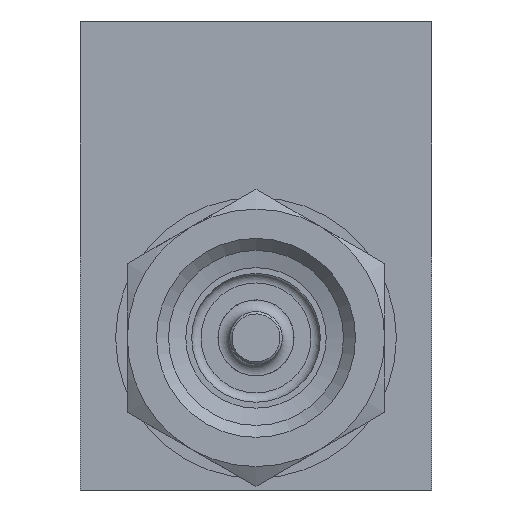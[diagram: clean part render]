
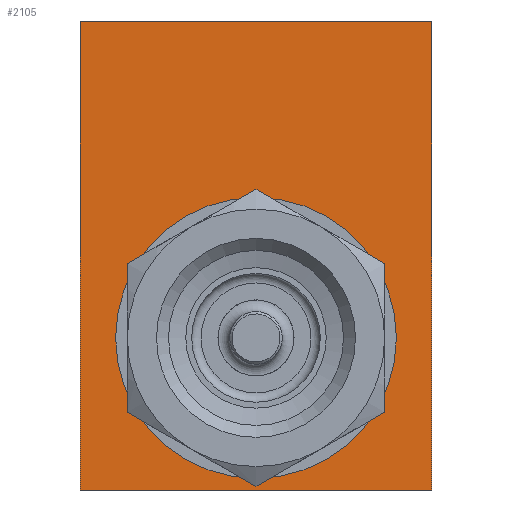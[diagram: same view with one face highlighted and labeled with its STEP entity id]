
A CAD part, left-side view. The second image highlights one B-rep face of the part: STEP entity #2105.
In plain terms, the highlighted planar face has unit normal (-1, 0, 0).
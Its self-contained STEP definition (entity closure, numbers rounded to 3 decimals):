
#117=FACE_BOUND('',#492,.T.);
#183=LINE('',#3354,#256);
#188=LINE('',#3364,#261);
#189=LINE('',#3367,#262);
#190=LINE('',#3368,#263);
#256=VECTOR('',#2654,10.);
#261=VECTOR('',#2663,10.);
#262=VECTOR('',#2666,10.);
#263=VECTOR('',#2667,10.);
#376=FACE_OUTER_BOUND('',#491,.T.);
#491=EDGE_LOOP('',(#1445,#1446,#1447,#1448));
#492=EDGE_LOOP('',(#1449,#1450));
#631=CIRCLE('',#2283,12.);
#632=CIRCLE('',#2284,12.);
#803=VERTEX_POINT('',#3317);
#804=VERTEX_POINT('',#3318);
#814=VERTEX_POINT('',#3347);
#817=VERTEX_POINT('',#3352);
#820=VERTEX_POINT('',#3362);
#821=VERTEX_POINT('',#3366);
#1048=EDGE_CURVE('',#803,#804,#631,.T.);
#1049=EDGE_CURVE('',#804,#803,#632,.T.);
#1066=EDGE_CURVE('',#817,#814,#183,.T.);
#1071=EDGE_CURVE('',#814,#820,#188,.T.);
#1072=EDGE_CURVE('',#821,#820,#189,.T.);
#1073=EDGE_CURVE('',#817,#821,#190,.T.);
#1445=ORIENTED_EDGE('',*,*,#1072,.T.);
#1446=ORIENTED_EDGE('',*,*,#1071,.F.);
#1447=ORIENTED_EDGE('',*,*,#1066,.F.);
#1448=ORIENTED_EDGE('',*,*,#1073,.T.);
#1449=ORIENTED_EDGE('',*,*,#1048,.T.);
#1450=ORIENTED_EDGE('',*,*,#1049,.T.);
#1950=PLANE('',#2300);
#2105=ADVANCED_FACE('',(#376,#117),#1950,.T.);
#2283=AXIS2_PLACEMENT_3D('',#3319,#2617,#2618);
#2284=AXIS2_PLACEMENT_3D('',#3320,#2619,#2620);
#2300=AXIS2_PLACEMENT_3D('',#3365,#2664,#2665);
#2617=DIRECTION('center_axis',(1.,0.,0.));
#2618=DIRECTION('ref_axis',(0.,0.,
1.));
#2619=DIRECTION('center_axis',(1.,0.,0.));
#2620=DIRECTION('ref_axis',(0.,0.,
1.));
#2654=DIRECTION('',(0.,1.,0.));
#2663=DIRECTION('',(0.,0.,1.));
#2664=DIRECTION('center_axis',(-1.,0.,0.));
#2665=DIRECTION('ref_axis',(0.,0.,
1.));
#2666=DIRECTION('',(0.,1.,0.));
#2667=DIRECTION('',(0.,0.,1.));
#3317=CARTESIAN_POINT('',(-132.335,60.975,5.));
#3318=CARTESIAN_POINT('',(-132.335,60.975,-19.));
#3319=CARTESIAN_POINT('Origin',(-132.335,60.975,-7.));
#3320=CARTESIAN_POINT('Origin',(-132.335,60.975,-7.));
#3347=CARTESIAN_POINT('',(-132.335,75.975,-20.));
#3352=CARTESIAN_POINT('',(-132.335,45.975,-20.));
#3354=CARTESIAN_POINT('',(-132.335,45.975,-20.));
#3362=CARTESIAN_POINT('',(-132.335,75.975,20.));
#3364=CARTESIAN_POINT('',(-132.335,75.975,-20.));
#3365=CARTESIAN_POINT('Origin',(-132.335,45.975,-20.));
#3366=CARTESIAN_POINT('',(-132.335,45.975,20.));
#3367=CARTESIAN_POINT('',(-132.335,45.975,20.));
#3368=CARTESIAN_POINT('',(-132.335,45.975,-20.));
